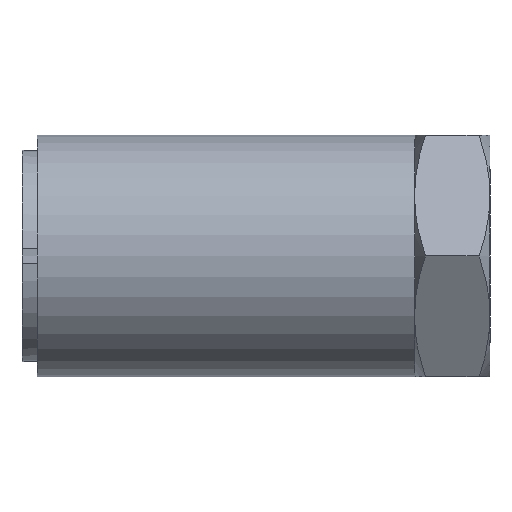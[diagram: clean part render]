
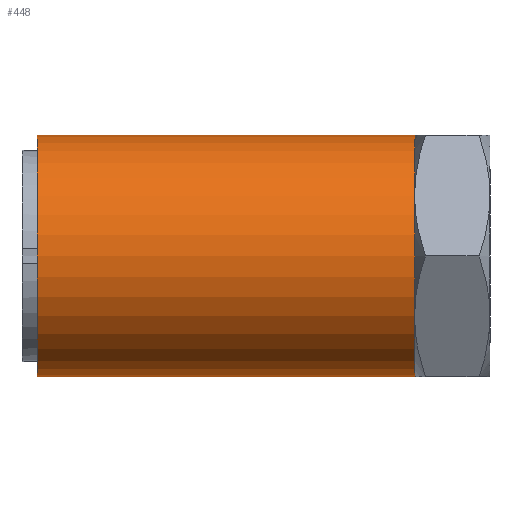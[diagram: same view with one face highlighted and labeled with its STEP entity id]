
A CAD part, front view. The second image highlights one B-rep face of the part: STEP entity #448.
In plain terms, the highlighted cylindrical face has radius 4 mm (diameter 8 mm), a partial arc.
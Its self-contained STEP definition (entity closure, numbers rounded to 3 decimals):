
#18 = AXIS2_PLACEMENT_3D ( 'NONE', #640, #656, #573 ) ;
#23 = AXIS2_PLACEMENT_3D ( 'NONE', #572, #589, #590 ) ;
#56 = CARTESIAN_POINT ( 'NONE',  ( 12.5, -3.464, 2. ) ) ;
#71 = CARTESIAN_POINT ( 'NONE',  ( 12.5, 0., -4. ) ) ;
#75 = VERTEX_POINT ( 'NONE', #56 ) ;
#90 = DIRECTION ( 'NONE',  ( 0., 0., 1. ) ) ;
#135 = CARTESIAN_POINT ( 'NONE',  ( 0., 0., 4. ) ) ;
#139 = CARTESIAN_POINT ( 'NONE',  ( 0., 0., -4. ) ) ;
#144 = CARTESIAN_POINT ( 'NONE',  ( 12.5, 0., 4. ) ) ;
#145 = VERTEX_POINT ( 'NONE', #71 ) ;
#147 = VERTEX_POINT ( 'NONE', #144 ) ;
#153 = VERTEX_POINT ( 'NONE', #181 ) ;
#181 = CARTESIAN_POINT ( 'NONE',  ( 12.5, -3.464, -2. ) ) ;
#288 = CARTESIAN_POINT ( 'NONE',  ( 0., 0., 0. ) ) ;
#343 = DIRECTION ( 'NONE',  ( -1., 0., 0. ) ) ;
#360 = DIRECTION ( 'NONE',  ( -1., 0., 0. ) ) ;
#361 = CARTESIAN_POINT ( 'NONE',  ( 0., 0., 0. ) ) ;
#364 = DIRECTION ( 'NONE',  ( 0., 0., 1. ) ) ;
#424 = DIRECTION ( 'NONE',  ( 0., 0., 1. ) ) ;
#448 = ADVANCED_FACE ( 'NONE', ( #918 ), #924, .T. ) ;
#469 = CARTESIAN_POINT ( 'NONE',  ( 0., 0., -4. ) ) ;
#504 = VERTEX_POINT ( 'NONE', #135 ) ;
#511 = VERTEX_POINT ( 'NONE', #139 ) ;
#519 = DIRECTION ( 'NONE',  ( -1., 0., 0. ) ) ;
#560 = DIRECTION ( 'NONE',  ( -1., 0., 0. ) ) ;
#572 = CARTESIAN_POINT ( 'NONE',  ( 12.5, 0., 0. ) ) ;
#573 = DIRECTION ( 'NONE',  ( 0., 0., 1. ) ) ;
#579 = CARTESIAN_POINT ( 'NONE',  ( 12.5, 0., 0. ) ) ;
#589 = DIRECTION ( 'NONE',  ( -1., 0., 0. ) ) ;
#590 = DIRECTION ( 'NONE',  ( 0., 0., 1. ) ) ;
#628 = DIRECTION ( 'NONE',  ( -1., 0., 0. ) ) ;
#634 = CARTESIAN_POINT ( 'NONE',  ( 0., 0., 4. ) ) ;
#640 = CARTESIAN_POINT ( 'NONE',  ( 12.5, 0., 0. ) ) ;
#656 = DIRECTION ( 'NONE',  ( -1., 0., 0. ) ) ;
#686 = ORIENTED_EDGE ( 'NONE', *, *, #1277, .T. ) ;
#694 = ORIENTED_EDGE ( 'NONE', *, *, #1219, .F. ) ;
#739 = ORIENTED_EDGE ( 'NONE', *, *, #1308, .F. ) ;
#740 = ORIENTED_EDGE ( 'NONE', *, *, #1327, .T. ) ;
#783 = ORIENTED_EDGE ( 'NONE', *, *, #1322, .T. ) ;
#804 = ORIENTED_EDGE ( 'NONE', *, *, #1334, .T. ) ;
#852 = EDGE_LOOP ( 'NONE', ( #739, #783, #804, #740, #686, #694 ) ) ;
#918 = FACE_OUTER_BOUND ( 'NONE', #852, .T. ) ;
#924 = CYLINDRICAL_SURFACE ( 'NONE', #1258, 4. ) ;
#1036 = VECTOR ( 'NONE', #628, 1000. ) ;
#1056 = LINE ( 'NONE', #634, #1036 ) ;
#1070 = LINE ( 'NONE', #469, #1081 ) ;
#1081 = VECTOR ( 'NONE', #560, 1000. ) ;
#1091 = CIRCLE ( 'NONE', #1208, 4. ) ;
#1113 = CIRCLE ( 'NONE', #1189, 4. ) ;
#1121 = CIRCLE ( 'NONE', #18, 4. ) ;
#1142 = CIRCLE ( 'NONE', #23, 4. ) ;
#1189 = AXIS2_PLACEMENT_3D ( 'NONE', #288, #343, #424 ) ;
#1208 = AXIS2_PLACEMENT_3D ( 'NONE', #579, #519, #90 ) ;
#1219 = EDGE_CURVE ( 'NONE', #511, #504, #1113, .T. ) ;
#1258 = AXIS2_PLACEMENT_3D ( 'NONE', #361, #360, #364 ) ;
#1277 = EDGE_CURVE ( 'NONE', #147, #504, #1056, .T. ) ;
#1308 = EDGE_CURVE ( 'NONE', #145, #511, #1070, .T. ) ;
#1322 = EDGE_CURVE ( 'NONE', #145, #153, #1091, .T. ) ;
#1327 = EDGE_CURVE ( 'NONE', #75, #147, #1121, .T. ) ;
#1334 = EDGE_CURVE ( 'NONE', #153, #75, #1142, .T. ) ;
